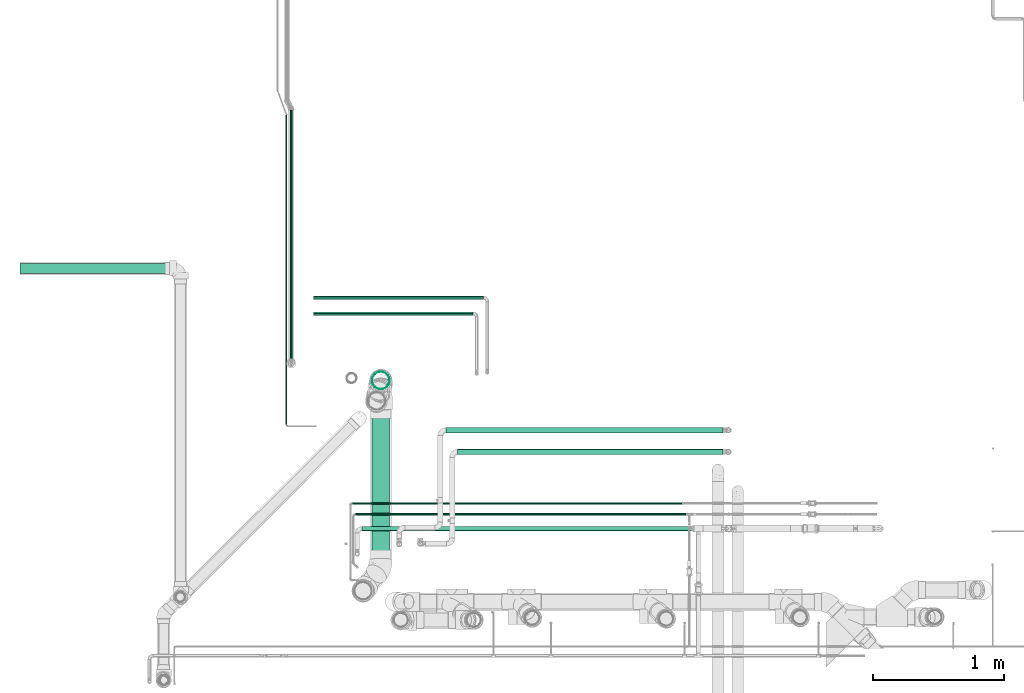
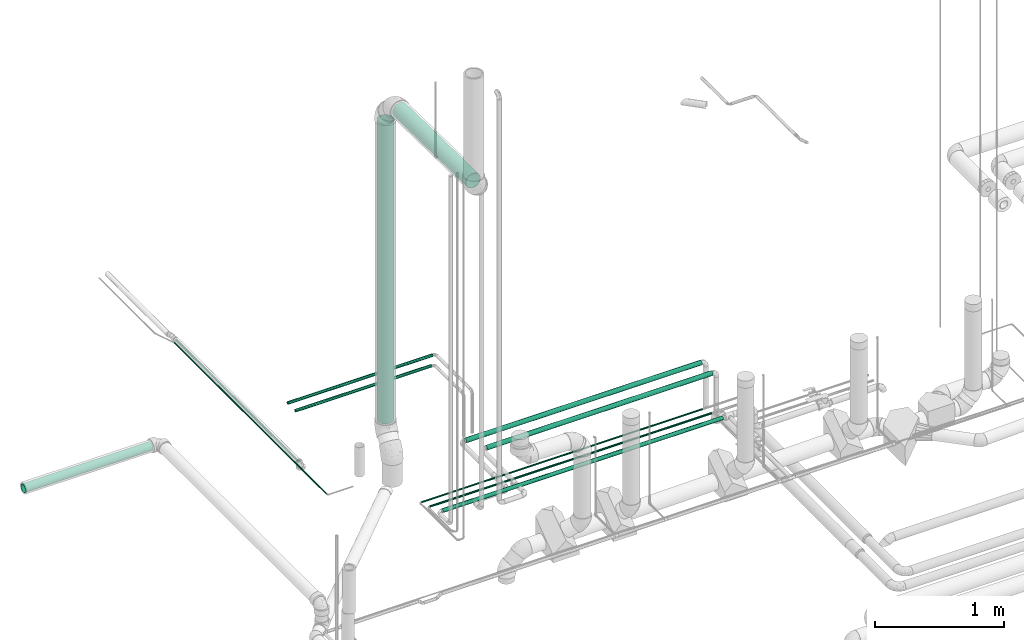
# One storey, part 49 of 156: 12 flow segments.
"""IFC2X3 building model written with IfcOpenShell, lengths in millimetres."""

from ifc_helpers import new_model, entity, si_unit, converted_unit, derived_unit, direction, frame, origin_with_axes, origin_2d_with_axis, place, context, subcontext, project, spatial, hollow_circle, extrude, source, transform, mapped, type_object, element, save


model = new_model("IFC2X3")

# Units and contexts
model_context = context("Model", 3, precision=0.01, world=frame((0.0, 4.29681676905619e-09, 0.0)), true_north=direction((4.01073788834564e-13, 1.0)))
plan_context = context("Plan", 3, precision=0.01, world=frame((0.0, 4.29681676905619e-09, 0.0)), true_north=direction((4.01073788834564e-13, 1.0)))
body_context = subcontext(model_context, "Body", "Model", "MODEL_VIEW")
ifc_project = project(units=[converted_unit("PLANEANGLEUNIT", "DEGREE", entity("IfcPositiveLengthMeasure", 0.0174532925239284), si_unit("PLANEANGLEUNIT", "RADIAN"), dimensions=[0, 0, 0, 0, 0, 0, 0]), si_unit("AREAUNIT", "SQUARE_METRE"), si_unit("LENGTHUNIT", "METRE", prefix="MILLI"), si_unit("MASSUNIT", "GRAM", prefix="KILO"), si_unit("POWERUNIT", "WATT"), si_unit("PRESSUREUNIT", "PASCAL", prefix="KILO"), si_unit("FORCEUNIT", "NEWTON", prefix="KILO"), si_unit("ELECTRICVOLTAGEUNIT", "VOLT"), si_unit("ELECTRICCURRENTUNIT", "AMPERE"), si_unit("THERMODYNAMICTEMPERATUREUNIT", "DEGREE_CELSIUS"), si_unit("TIMEUNIT", "SECOND"), si_unit("VOLUMEUNIT", "CUBIC_METRE"), derived_unit("LINEARVELOCITYUNIT", [(si_unit("LENGTHUNIT", "METRE"), 1), (si_unit("TIMEUNIT", "SECOND"), -1)]), derived_unit("VOLUMETRICFLOWRATEUNIT", [(si_unit("VOLUMEUNIT", "CUBIC_METRE"), 1), (si_unit("TIMEUNIT", "SECOND"), -1)]), derived_unit("THERMALTRANSMITTANCEUNIT", [(si_unit("POWERUNIT", "WATT"), 1), (si_unit("THERMODYNAMICTEMPERATUREUNIT", "KELVIN"), -1), (si_unit("AREAUNIT", "SQUARE_METRE"), -1)]), derived_unit("SOUNDPRESSUREUNIT", [(si_unit("PRESSUREUNIT", "PASCAL"), 1)])], contexts=[model_context, plan_context])

# Site, building, storey
site_placement = place(None, frame((0.0, -4.29681676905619e-09, 0.0), z_axis=(0.0, 0.0, 1.0), x_axis=(1.0, 0.0, 0.0)))
site = spatial("IfcSite", under=ifc_project, at=site_placement, CompositionType="ELEMENT")
building_placement = place(site_placement, frame((0.0, 4.29681676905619e-09, 0.0), z_axis=(0.0, 0.0, 1.0), x_axis=(1.0, 0.0, 0.0)))
building = spatial("IfcBuilding", under=site, at=building_placement, Name="mc-building", CompositionType="ELEMENT")
storey_placement = place(building_placement, frame((0.0, 0.0, 205200.0), z_axis=(0.0, 0.0, 1.0), x_axis=(1.0, 0.0, 0.0)))
storey = spatial("IfcBuildingStorey", under=building, at=storey_placement, Name="Nivå D + 1,2 m", CompositionType="ELEMENT", Elevation=205200.0)

# Flow segments
pipe_segment_type_1 = type_object("IfcPipeSegmentType", Name="Stålrør normaltykke", PredefinedType="RIGIDSEGMENT")
shared_shape_1 = source(origin_with_axes(), body_context, "Body", "SweptSolid", [
    extrude(hollow_circle(Radius=21.2, WallThickness=2.0, at=origin_2d_with_axis()), frame((0.0, 0.0, 0.0), z_axis=(1.0, 0.0, 0.0), x_axis=(0.0, 1.0, 0.0)), (0.0, 0.0, 1.0), 2025.2),
])
flow_segment_1_placement = place(storey_placement, frame((326920.90442, 463869.78191, 4303.5), z_axis=(0.0, 0.0, 1.0), x_axis=(-1.0, 0.0, 0.0)))
element("IfcFlowSegment", 1, at=flow_segment_1_placement, inside=storey, type_object=pipe_segment_type_1, Name="Stålrør normaltykke", context=body_context, shape_type="MappedRepresentation", body=[
    mapped(shared_shape_1, transform((0.0, 0.0, 0.0), scale=1.0)),
])
shared_shape_2 = source(origin_with_axes(), body_context, "Body", "SweptSolid", [
    extrude(hollow_circle(Radius=21.2, WallThickness=2.0, at=origin_2d_with_axis()), frame((0.0, 0.0, 0.0), z_axis=(1.0, 0.0, 0.0), x_axis=(0.0, 1.0, 0.0)), (0.0, 0.0, 1.0), 2115.2),
])
flow_segment_2_placement = place(storey_placement, frame((326920.90442, 464036.1423, 4303.5), z_axis=(0.0, 0.0, 1.0), x_axis=(-1.0, 0.0, 0.0)))
element("IfcFlowSegment", 2, at=flow_segment_2_placement, inside=storey, type_object=pipe_segment_type_1, Name="Stålrør normaltykke", context=body_context, shape_type="MappedRepresentation", body=[
    mapped(shared_shape_2, transform((0.0, 0.0, 0.0), scale=1.0)),
])
pipe_segment_type_2 = type_object("IfcPipeSegmentType", Name="Kobberrør", PredefinedType="RIGIDSEGMENT")
shared_shape_3 = source(origin_with_axes(), body_context, "Body", "SweptSolid", [
    extrude(hollow_circle(Radius=17.5, WallThickness=2.0, at=origin_2d_with_axis()), frame((0.0, 0.0, 0.0), z_axis=(1.0, 0.0, 0.0), x_axis=(0.0, 1.0, 0.0)), (0.0, 0.0, 1.0), 2516.8),
])
flow_segment_3_placement = place(storey_placement, frame((324163.525, 463284.5375, 4318.0), z_axis=(0.0, 0.0, 1.0), x_axis=(1.0, 0.0, 0.0)))
element("IfcFlowSegment", 3, at=flow_segment_3_placement, inside=storey, type_object=pipe_segment_type_2, Name="Kobberrør", context=body_context, shape_type="MappedRepresentation", body=[
    mapped(shared_shape_3, transform((0.0, 0.0, 0.0), scale=1.0)),
])
shared_shape_4 = source(origin_with_axes(), body_context, "Body", "SweptSolid", [
    extrude(hollow_circle(Radius=7.5, WallThickness=2.0, at=origin_2d_with_axis()), frame((0.0, 0.0, 0.0), z_axis=(1.0, 0.0, 0.0), x_axis=(0.0, 1.0, 0.0)), (0.0, 0.0, 1.0), 2521.2),
])
flow_segment_4_placement = place(storey_placement, frame((324090.349, 463477.7375, 4308.0), z_axis=(0.0, 0.0, 1.0), x_axis=(1.0, 0.0, 0.0)))
element("IfcFlowSegment", 4, at=flow_segment_4_placement, inside=storey, type_object=pipe_segment_type_2, Name="Kobberrør", context=body_context, shape_type="MappedRepresentation", body=[
    mapped(shared_shape_4, transform((0.0, 0.0, 0.0), scale=1.0)),
])
shared_shape_5 = source(origin_with_axes(), body_context, "Body", "SweptSolid", [
    extrude(hollow_circle(Radius=9.0, WallThickness=2.0, at=origin_2d_with_axis()), frame((0.0, 0.0, 0.0), z_axis=(1.0, 0.0, 0.0), x_axis=(0.0, 1.0, 0.0)), (0.0, 0.0, 1.0), 2528.8),
])
flow_segment_5_placement = place(storey_placement, frame((324114.70519, 463393.4875, 4309.0), z_axis=(0.0, 0.0, 1.0), x_axis=(1.0, 0.0, 0.0)))
element("IfcFlowSegment", 5, at=flow_segment_5_placement, inside=storey, type_object=pipe_segment_type_2, Name="Kobberrør", context=body_context, shape_type="MappedRepresentation", body=[
    mapped(shared_shape_5, transform((0.0, 0.0, 0.0), scale=1.0)),
])
pipe_segment_type_3 = type_object("IfcPipeSegmentType", Name="MA", PredefinedType="RIGIDSEGMENT")
shared_shape_6 = source(origin_with_axes(), body_context, "Body", "SweptSolid", [
    extrude(hollow_circle(Radius=67.5, WallThickness=2.0, at=origin_2d_with_axis()), frame((0.0, 0.0, 0.0), z_axis=(1.0, 0.0, 0.0), x_axis=(0.0, 1.0, 0.0)), (0.0, 0.0, 1.0), 2845.2),
])
flow_segment_6_placement = place(storey_placement, frame((324308.57539, 464415.93402, 4450.17718), z_axis=(1.0, 0.0, 0.0), x_axis=(0.0, 0.0, 1.0)))
element("IfcFlowSegment", 6, at=flow_segment_6_placement, inside=storey, type_object=pipe_segment_type_3, Name="MA", context=body_context, shape_type="MappedRepresentation", body=[
    mapped(shared_shape_6, transform((0.0, 0.0, 0.0), scale=1.0)),
])
shared_shape_7 = source(origin_with_axes(), body_context, "Body", "SweptSolid", [
    extrude(hollow_circle(Radius=67.5, WallThickness=2.0, at=origin_2d_with_axis()), frame((0.0, 0.0, 0.0), z_axis=(1.0, 0.0, 0.0), x_axis=(0.0, 1.0, 0.0)), (0.0, 0.0, 1.0), 1140.2),
])
flow_segment_7_placement = place(storey_placement, frame((324308.8595, 464192.9297, 7520.86944000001), z_axis=(0.62225385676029, -0.0130449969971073, -0.782706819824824), x_axis=(-9.78786566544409e-08, -0.999861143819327, 0.016664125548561)))
element("IfcFlowSegment", 7, at=flow_segment_7_placement, inside=storey, type_object=pipe_segment_type_3, Name="MA", context=body_context, shape_type="MappedRepresentation", body=[
    mapped(shared_shape_7, transform((0.0, 0.0, 0.0), scale=1.0)),
])
shared_shape_8 = source(origin_with_axes(), body_context, "Body", "SweptSolid", [
    extrude(hollow_circle(Radius=13.3, WallThickness=2.0, at=origin_2d_with_axis()), frame((0.0, 0.0, 0.0), z_axis=(1.0, 0.0, 0.0), x_axis=(0.0, 1.0, 0.0)), (0.0, 0.0, 1.0), 1220.0),
])
flow_segment_8_placement = place(storey_placement, frame((323794.1735, 464927.01094, 4400.0), z_axis=(0.0, 0.0, 1.0), x_axis=(1.0, 0.0, 0.0)))
element("IfcFlowSegment", 8, at=flow_segment_8_placement, inside=storey, type_object=pipe_segment_type_1, Name="Stålrør normaltykke", context=body_context, shape_type="MappedRepresentation", body=[
    mapped(shared_shape_8, transform((0.0, 0.0, 0.0), scale=1.0)),
])
shared_shape_9 = source(origin_with_axes(), body_context, "Body", "SweptSolid", [
    extrude(hollow_circle(Radius=13.3, WallThickness=2.0, at=origin_2d_with_axis()), frame((0.0, 0.0, 0.0), z_axis=(1.0, 0.0, 0.0), x_axis=(0.0, 1.0, 0.0)), (0.0, 0.0, 1.0), 1300.0),
])
flow_segment_9_placement = place(storey_placement, frame((323794.1735, 465047.01094, 4400.0), z_axis=(0.0, 0.0, 1.0), x_axis=(1.0, 0.0, 0.0)))
element("IfcFlowSegment", 9, at=flow_segment_9_placement, inside=storey, type_object=pipe_segment_type_1, Name="Stålrør normaltykke", context=body_context, shape_type="MappedRepresentation", body=[
    mapped(shared_shape_9, transform((0.0, 0.0, 0.0), scale=1.0)),
])
shared_shape_10 = source(origin_with_axes(), body_context, "Body", "SweptSolid", [
    extrude(hollow_circle(Radius=9.0, WallThickness=2.0, at=origin_2d_with_axis()), frame((0.0, 0.0, 0.0), z_axis=(1.0, 0.0, 0.0), x_axis=(0.0, 1.0, 0.0)), (0.0, 0.0, 1.0), 1907.1),
])
flow_segment_10_placement = place(storey_placement, frame((323623.87367, 466482.83718, 4190.50902999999), z_axis=(0.0, 0.0, 1.0), x_axis=(0.0, -1.0, 0.0)))
element("IfcFlowSegment", 10, at=flow_segment_10_placement, inside=storey, type_object=pipe_segment_type_2, Name="Kobberrør", context=body_context, shape_type="MappedRepresentation", body=[
    mapped(shared_shape_10, transform((0.0, 0.0, 0.0), scale=1.0)),
])
shared_shape_11 = source(origin_with_axes(), body_context, "Body", "SweptSolid", [
    extrude(hollow_circle(Radius=37.5, WallThickness=2.0, at=origin_2d_with_axis()), frame((0.0, 0.0, 0.0), z_axis=(1.0, 0.0, 0.0), x_axis=(0.0, 1.0, 0.0)), (0.0, 0.0, 1.0), 1143.5),
])
flow_segment_11_placement = place(storey_placement, frame((322695.89789, 465271.95442, 4241.60741), z_axis=(-0.000368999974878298, 0.0, 0.999999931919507), x_axis=(-0.999999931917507, -1.99999987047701e-06, -0.00036899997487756)))
element("IfcFlowSegment", 11, at=flow_segment_11_placement, inside=storey, type_object=pipe_segment_type_3, Name="MA", context=body_context, shape_type="MappedRepresentation", body=[
    mapped(shared_shape_11, transform((0.0, 0.0, 0.0), scale=1.0)),
])
shared_shape_12 = source(origin_with_axes(), body_context, "Body", "SweptSolid", [
    extrude(hollow_circle(Radius=6.0, WallThickness=2.0, at=origin_2d_with_axis()), frame((0.0, 0.0, 0.0), z_axis=(1.0, 0.0, 0.0), x_axis=(0.0, 1.0, 0.0)), (0.0, 0.0, 1.0), 2365.9),
])
flow_segment_12_placement = place(storey_placement, frame((323586.90619, 466444.33377, 4196.25), z_axis=(0.0, 0.0, 1.0), x_axis=(0.0, -1.0, 0.0)))
element("IfcFlowSegment", 12, at=flow_segment_12_placement, inside=storey, type_object=pipe_segment_type_2, Name="Kobberrør", context=body_context, shape_type="MappedRepresentation", body=[
    mapped(shared_shape_12, transform((0.0, 0.0, 0.0), scale=1.0)),
])

save(model, "model.ifc")
